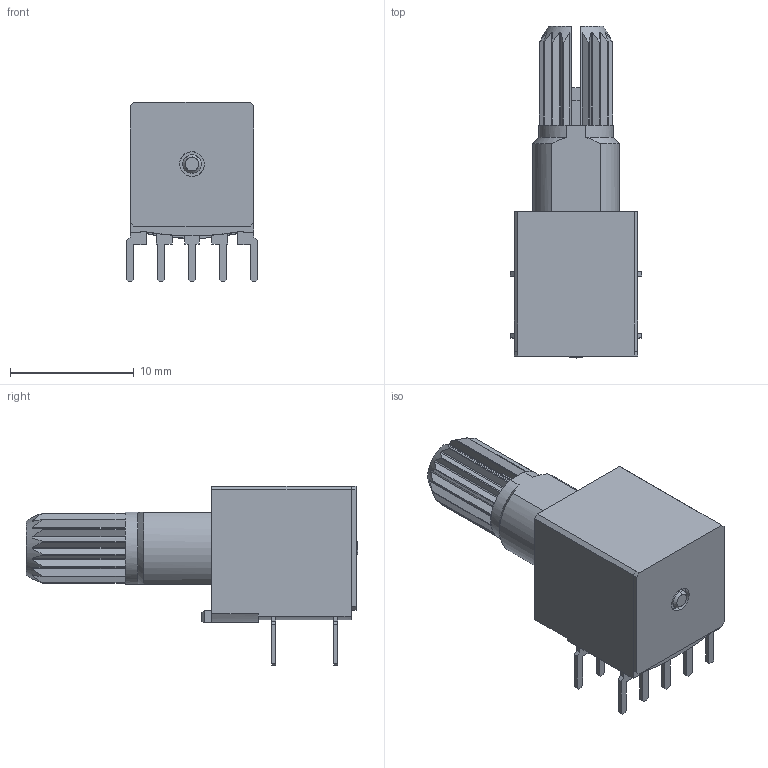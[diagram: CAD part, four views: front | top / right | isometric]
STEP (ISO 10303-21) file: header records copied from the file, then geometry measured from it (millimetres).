
FILE_DESCRIPTION (( 'STEP AP214' ), '1' );
FILE_NAME ('SRBM131300.STEP', '2012-01-07T07:21:53', ( ' ' ), ( '' ), 'SwSTEP 2.0', 'SolidWorks 2010', '' );
FILE_SCHEMA (( 'AUTOMOTIVE_DESIGN' ));
Length unit declared in the file: millimetre
Products named in the file (1): SRBM131300
Bounding box: 10.6 x 26.8 x 14.5 mm (x, y, z)
Volume: 1650.8 mm3; surface area: 1160.9 mm2
Topology: 1 solids, 1 shells, 252 faces, 723 edges, 480 vertices
Faces by surface type: plane 231, cylinder 12, cone 9
Entity records: 11279 total; most frequent: CARTESIAN_POINT 2172, ORIENTED_EDGE 1446, DIRECTION 1091, EDGE_CURVE 723, VECTOR 533, LINE 533, VERTEX_POINT 480, AXIS2_PLACEMENT_3D 279
